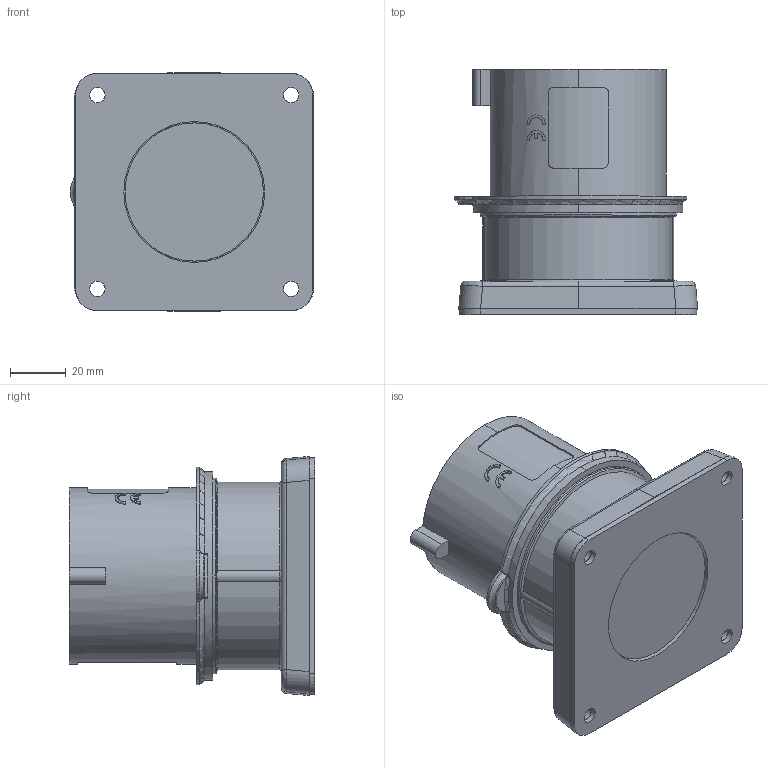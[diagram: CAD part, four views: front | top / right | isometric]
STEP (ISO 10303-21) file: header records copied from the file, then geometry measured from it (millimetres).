
FILE_DESCRIPTION((''),'2;1');
FILE_NAME('821_DUMMY_SW0001','2018-04-03T',('gisse'),('MENNEKES'),'PRO/ENGINEER BY PARAMETRIC TECHNOLOGY CORPORATION, 2015440','PRO/ENGINEER BY PARAMETRIC TECHNOLOGY CORPORATION, 2015440','');
FILE_SCHEMA(('AUTOMOTIVE_DESIGN { 1 0 10303 214 1 1 1 1 }'));
Length unit declared in the file: millimetre
Products named in the file (1): 821_DUMMY_SW0001
Bounding box: 87.32 x 88 x 85.7 mm (x, y, z)
Volume: 231349.6 mm3; surface area: 51052.8 mm2
Topology: 1 solids, 1 shells, 299 faces, 719 edges, 450 vertices
Faces by surface type: plane 109, cylinder 80, cone 46, torus 44, bspline 16, sphere 4
Entity records: 13913 total; most frequent: CARTESIAN_POINT 3330, DIRECTION 1450, ORIENTED_EDGE 1438, EDGE_CURVE 719, AXIS2_PLACEMENT_3D 583, FILL_AREA_STYLE_COLOUR 544, FILL_AREA_STYLE 544, SURFACE_STYLE_FILL_AREA 544
